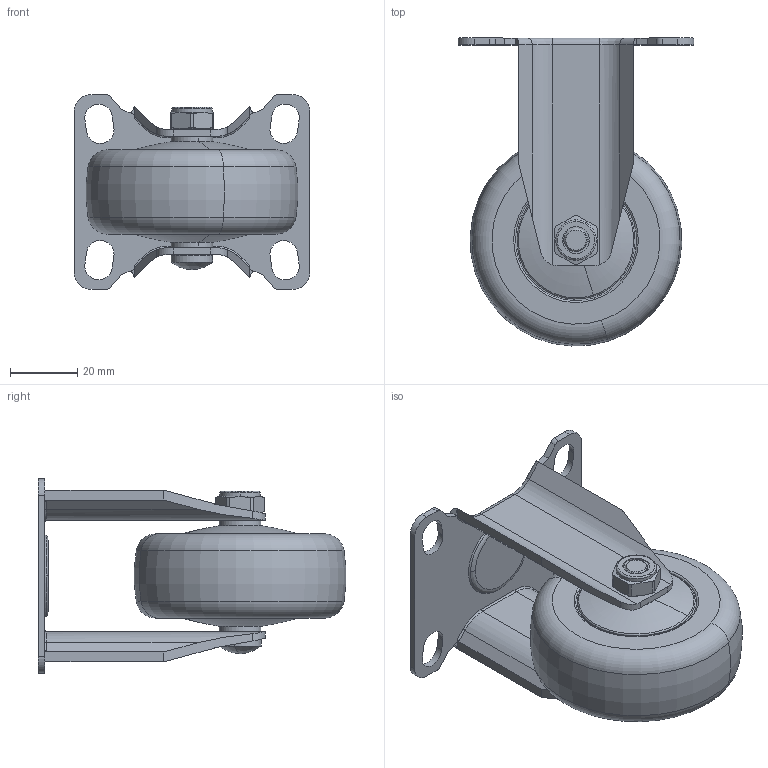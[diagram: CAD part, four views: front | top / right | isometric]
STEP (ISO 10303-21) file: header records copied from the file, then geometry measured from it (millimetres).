
FILE_DESCRIPTION (( 'STEP AP214' ), '1' );
FILE_NAME ('372025-3725-67 ¶¨Ïò.STEP', '2019-12-14T00:05:24', ( 'Owner' ), ( 'Organization' ), 'SwSTEP 2.0', 'SolidWorks 2014', '' );
FILE_SCHEMA (( 'AUTOMOTIVE_DESIGN' ));
Length unit declared in the file: millimetre
Products named in the file (6): 350-33a; 价陬; 300-34; 372025-3725-67 隅砃; 3725-907; 3725-10
Assembly tree (5 placements, depth 3):
  372025-3725-67 隅砃
    3725-10
    价陬
      300-34
      350-33a
    3725-907
Bounding box: 70 x 91.4 x 57.8 mm (x, y, z)
Volume: 92170.2 mm3; surface area: 29263 mm2
Topology: 4 solids, 4 shells, 257 faces, 670 edges, 427 vertices
Faces by surface type: cylinder 100, plane 80, bspline 36, torus 22, cone 19
Entity records: 85186 total; most frequent: CARTESIAN_POINT 78913, ORIENTED_EDGE 1336, DIRECTION 1196, EDGE_CURVE 668, AXIS2_PLACEMENT_3D 456, VERTEX_POINT 427, LINE 284, VECTOR 284
